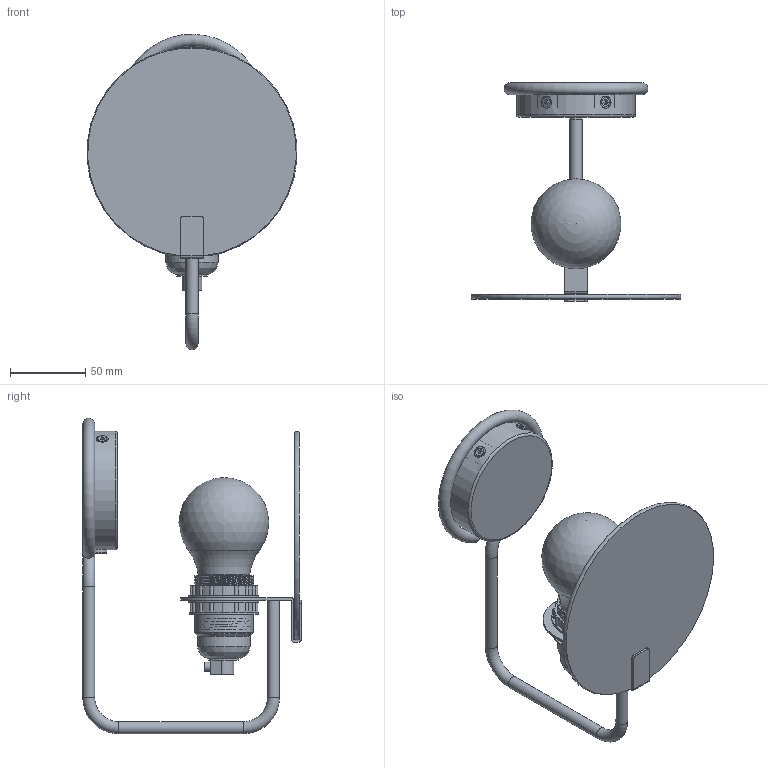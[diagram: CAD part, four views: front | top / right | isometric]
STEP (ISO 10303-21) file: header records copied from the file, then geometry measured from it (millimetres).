
FILE_DESCRIPTION(/* description */ ('Unknown'),/* implementation_level */ '2;1');
FILE_NAME(/* name */ '9686',/* time_stamp */ '2022-07-05T09:44:28+02:00',/* author */ ('Unknown'),/* organization */ ('Unknown'),/* preprocessor_version */ 'ST-DEVELOPER v18.1',/* originating_system */ 'Solid Edge',/* authorisation */ 'Unknown');
FILE_SCHEMA (('AUTOMOTIVE_DESIGN {1 0 10303 214 3 1 1}'));
Length unit declared in the file: millimetre
Products named in the file (20): 9686-9687-9688-9689-9690; 151001813710; 153000345701; 131000195996_1; 151001768142; 152000407999_1; 101000224522; 220000018000; 005000014000; 005000015000; 005000017000; 011000150000; 060000319352; O1729-9; O1729-9 (02); o2147-1_oa_0; 060000367352; 210000030013; 063000281356; H1233-5
Assembly tree (22 placements, depth 3):
  9686-9687-9688-9689-9690
    151001813710
    153000345701
      131000195996_1
      151001768142
      152000407999_1
    101000224522
    220000018000
    005000014000
    005000015000  x2
    005000017000
    011000150000
    060000319352
      O1729-9
      O1729-9 (02)
    o2147-1_oa_0
    060000367352
    210000030013  x2
    063000281356  x2
    H1233-5
Bounding box: 139.66 x 145.5 x 209.98 mm (x, y, z)
Volume: 261816.6 mm3; surface area: 128734.9 mm2
Topology: 19 solids, 19 shells, 544 faces, 1348 edges, 849 vertices
Faces by surface type: plane 233, cylinder 219, torus 39, bspline 26, sphere 14, cone 13
Full cylindrical faces by diameter (mm): 1.567 x2, 3 x1, 3.242 x2, 3.5 x2, 4 x3, 4.5 x2, 4.917 x1, 6 x1, 6.5 x1, 7 x2, 8 x5, 10 x2, 10.5 x1, 11 x1, 12 x1, 13 x1, 17 x1, 20 x1, 24.5 x1, 30.5 x1, 35 x1, 35.5 x5, 37 x6, 38 x1, 39 x1, 40 x1, 42 x1, 46 x1, 46.5 x2, 77 x1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
Entity records: 21074 total; most frequent: CARTESIAN_POINT 7097, DIRECTION 2306, ORIENTED_EDGE 2132, EDGE_CURVE 1066, AXIS2_PLACEMENT_3D 882, VERTEX_POINT 711, EDGE_LOOP 607, FACE_BOUND 607
